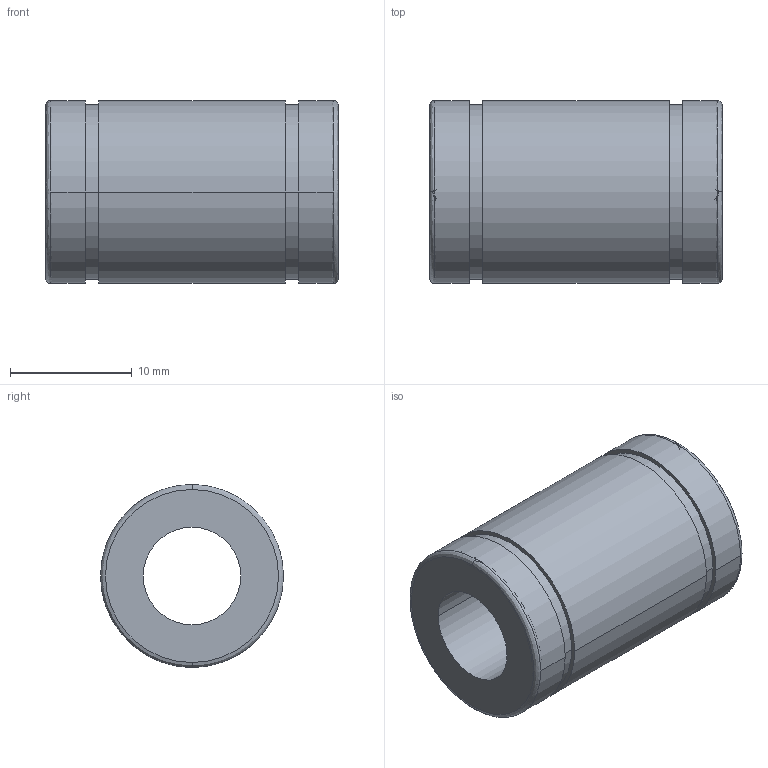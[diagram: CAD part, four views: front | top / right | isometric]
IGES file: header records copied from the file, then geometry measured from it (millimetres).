
Start section: 3D InterOp IGES (Version 21 0 1), Spatial Corp. Copyright (c) 1999-2007.
Global section: file name: N-8UU.igs; native system: Spatial Corp.; preprocessor: 3D InterOp GENERIC/IGES 3.0; author: Noname; organization: Noname; date: 20220311.145143; units: millimetre
Bounding box: 24 x 15 x 15 mm (x, y, z)
Surface area: 2362.7 mm2 (no closed solid volume)
Topology: 0 solids, 0 shells, 22 faces, 108 edges, 104 vertices
Faces by surface type: revolution 16, extrusion 6
